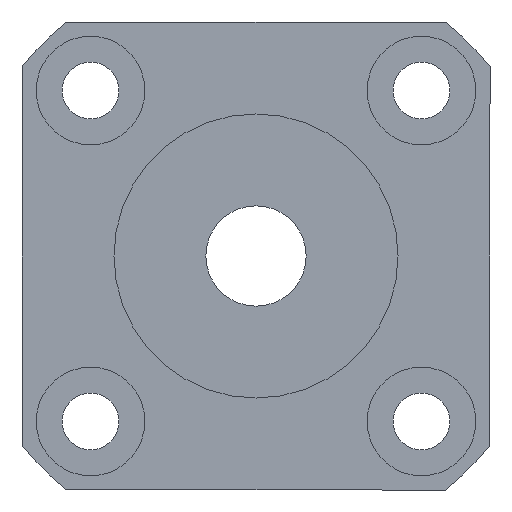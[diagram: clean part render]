
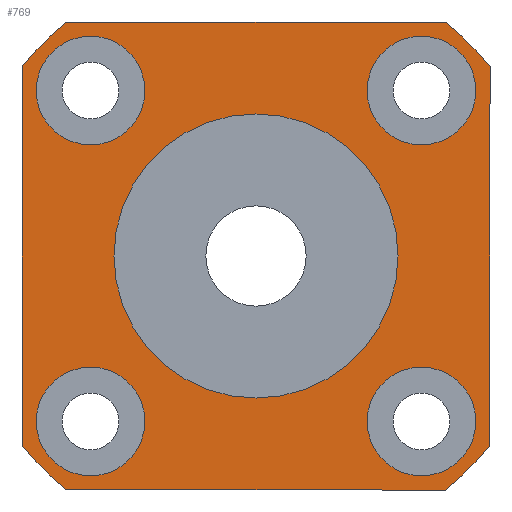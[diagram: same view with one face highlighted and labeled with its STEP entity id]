
A CAD part, left-side view. The second image highlights one B-rep face of the part: STEP entity #769.
In plain terms, the highlighted planar face has unit normal (-1, 0, 0).
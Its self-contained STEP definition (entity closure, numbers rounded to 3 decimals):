
#165=CARTESIAN_POINT('',(0.0,9.899,6.649));
#166=VERTEX_POINT('',#165);
#167=CARTESIAN_POINT('',(0.0,9.899,9.899));
#168=DIRECTION('',(1.0,0.0,0.0));
#169=DIRECTION('',(0.0,0.0,-1.0));
#170=AXIS2_PLACEMENT_3D('',#167,#168,#169);
#171=CIRCLE('',#170,3.25);
#172=EDGE_CURVE('',#166,#166,#171,.T.);
#233=CARTESIAN_POINT('',(0.0,6.649,-9.899));
#234=VERTEX_POINT('',#233);
#235=CARTESIAN_POINT('',(0.0,9.899,-9.899));
#236=DIRECTION('',(1.0,0.0,0.0));
#237=DIRECTION('',(0.0,-1.0,0.0));
#238=AXIS2_PLACEMENT_3D('',#235,#236,#237);
#239=CIRCLE('',#238,3.25);
#240=EDGE_CURVE('',#234,#234,#239,.T.);
#301=CARTESIAN_POINT('',(0.0,-9.899,-6.649));
#302=VERTEX_POINT('',#301);
#303=CARTESIAN_POINT('',(0.0,-9.899,-9.899));
#304=DIRECTION('',(1.0,0.0,0.0));
#305=DIRECTION('',(0.0,0.0,1.0));
#306=AXIS2_PLACEMENT_3D('',#303,#304,#305);
#307=CIRCLE('',#306,3.25);
#308=EDGE_CURVE('',#302,#302,#307,.T.);
#369=CARTESIAN_POINT('',(0.0,-6.649,9.899));
#370=VERTEX_POINT('',#369);
#371=CARTESIAN_POINT('',(0.0,-9.899,9.899));
#372=DIRECTION('',(1.0,0.0,0.0));
#373=DIRECTION('',(0.0,1.0,0.0));
#374=AXIS2_PLACEMENT_3D('',#371,#372,#373);
#375=CIRCLE('',#374,3.25);
#376=EDGE_CURVE('',#370,#370,#375,.T.);
#529=CARTESIAN_POINT('',(0.0,11.314,-14.));
#530=VERTEX_POINT('',#529);
#537=CARTESIAN_POINT('',(0.0,14.,-11.314));
#538=VERTEX_POINT('',#537);
#539=CARTESIAN_POINT('',(0.0,0.,0.));
#540=DIRECTION('',(1.0,0.0,0.0));
#541=DIRECTION('',(0.0,1.0,0.0));
#542=AXIS2_PLACEMENT_3D('',#539,#540,#541);
#543=CIRCLE('',#542,18.0);
#544=EDGE_CURVE('',#530,#538,#543,.T.);
#561=CARTESIAN_POINT('',(0.0,-11.314,-14.));
#562=VERTEX_POINT('',#561);
#569=CARTESIAN_POINT('',(0.0,-11.314,-14.));
#570=DIRECTION('',(0.0,1.0,0.0));
#571=VECTOR('',#570,22.627);
#572=LINE('',#569,#571);
#573=EDGE_CURVE('',#562,#530,#572,.T.);
#585=CARTESIAN_POINT('',(0.0,-14.,-11.314));
#586=VERTEX_POINT('',#585);
#593=CARTESIAN_POINT('',(0.0,0.,0.));
#594=DIRECTION('',(1.0,0.0,0.0));
#595=DIRECTION('',(0.0,1.0,0.0));
#596=AXIS2_PLACEMENT_3D('',#593,#594,#595);
#597=CIRCLE('',#596,18.0);
#598=EDGE_CURVE('',#586,#562,#597,.T.);
#610=CARTESIAN_POINT('',(0.0,-14.,11.314));
#611=VERTEX_POINT('',#610);
#618=CARTESIAN_POINT('',(0.0,-14.,11.314));
#619=DIRECTION('',(0.0,0.0,-1.0));
#620=VECTOR('',#619,22.627);
#621=LINE('',#618,#620);
#622=EDGE_CURVE('',#611,#586,#621,.T.);
#636=CARTESIAN_POINT('',(0.0,8.5,0.));
#637=VERTEX_POINT('',#636);
#638=CARTESIAN_POINT('',(0.0,0.,0.));
#639=DIRECTION('',(1.0,0.0,0.0));
#640=DIRECTION('',(0.0,-1.0,0.0));
#641=AXIS2_PLACEMENT_3D('',#638,#639,#640);
#642=CIRCLE('',#641,8.5);
#643=EDGE_CURVE('',#637,#637,#642,.T.);
#654=CARTESIAN_POINT('',(0.0,-11.314,14.));
#655=VERTEX_POINT('',#654);
#662=CARTESIAN_POINT('',(0.0,0.,0.));
#663=DIRECTION('',(1.0,0.0,0.0));
#664=DIRECTION('',(0.0,1.0,0.0));
#665=AXIS2_PLACEMENT_3D('',#662,#663,#664);
#666=CIRCLE('',#665,18.0);
#667=EDGE_CURVE('',#655,#611,#666,.T.);
#679=CARTESIAN_POINT('',(0.0,11.314,14.));
#680=VERTEX_POINT('',#679);
#687=CARTESIAN_POINT('',(0.0,11.314,14.));
#688=DIRECTION('',(0.0,-1.0,0.0));
#689=VECTOR('',#688,22.627);
#690=LINE('',#687,#689);
#691=EDGE_CURVE('',#680,#655,#690,.T.);
#703=CARTESIAN_POINT('',(0.0,14.,11.314));
#704=VERTEX_POINT('',#703);
#711=CARTESIAN_POINT('',(0.0,0.,0.));
#712=DIRECTION('',(1.0,0.0,0.0));
#713=DIRECTION('',(0.0,1.0,0.0));
#714=AXIS2_PLACEMENT_3D('',#711,#712,#713);
#715=CIRCLE('',#714,18.0);
#716=EDGE_CURVE('',#704,#680,#715,.T.);
#729=CARTESIAN_POINT('',(0.0,14.,-11.314));
#730=DIRECTION('',(0.0,0.0,1.0));
#731=VECTOR('',#730,22.627);
#732=LINE('',#729,#731);
#733=EDGE_CURVE('',#538,#704,#732,.T.);
#739=CARTESIAN_POINT('',(0.0,0.,0.));
#740=DIRECTION('',(1.0,0.0,0.0));
#741=DIRECTION('',(0.0,0.0,-1.0));
#742=AXIS2_PLACEMENT_3D('',#739,#740,#741);
#743=PLANE('',#742);
#744=ORIENTED_EDGE('',*,*,#598,.F.);
#745=ORIENTED_EDGE('',*,*,#622,.F.);
#746=ORIENTED_EDGE('',*,*,#667,.F.);
#747=ORIENTED_EDGE('',*,*,#691,.F.);
#748=ORIENTED_EDGE('',*,*,#716,.F.);
#749=ORIENTED_EDGE('',*,*,#733,.F.);
#750=ORIENTED_EDGE('',*,*,#544,.F.);
#751=ORIENTED_EDGE('',*,*,#573,.F.);
#752=EDGE_LOOP('',(#744,#745,#746,#747,#748,#749,#750,#751));
#753=FACE_OUTER_BOUND('',#752,.T.);
#754=ORIENTED_EDGE('',*,*,#172,.T.);
#755=EDGE_LOOP('',(#754));
#756=FACE_BOUND('',#755,.T.);
#757=ORIENTED_EDGE('',*,*,#240,.T.);
#758=EDGE_LOOP('',(#757));
#759=FACE_BOUND('',#758,.T.);
#760=ORIENTED_EDGE('',*,*,#308,.T.);
#761=EDGE_LOOP('',(#760));
#762=FACE_BOUND('',#761,.T.);
#763=ORIENTED_EDGE('',*,*,#376,.T.);
#764=EDGE_LOOP('',(#763));
#765=FACE_BOUND('',#764,.T.);
#766=ORIENTED_EDGE('',*,*,#643,.T.);
#767=EDGE_LOOP('',(#766));
#768=FACE_BOUND('',#767,.T.);
#769=ADVANCED_FACE('',(#753,#756,#759,#762,#765,#768),#743,.F.);
